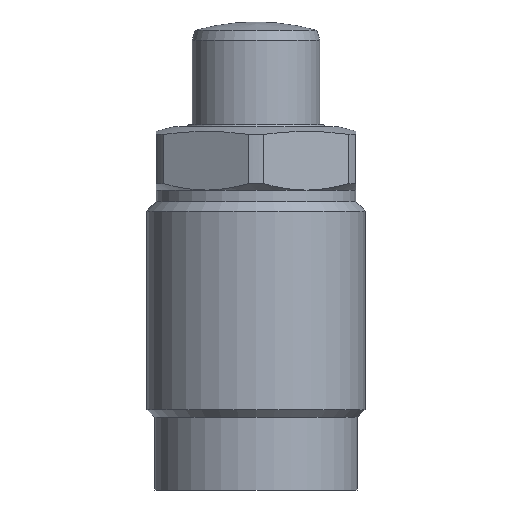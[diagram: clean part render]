
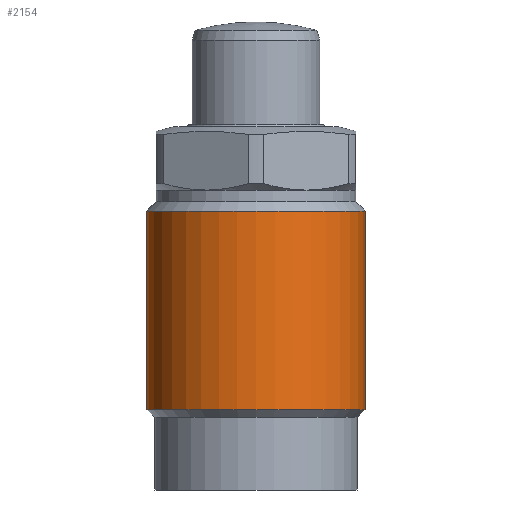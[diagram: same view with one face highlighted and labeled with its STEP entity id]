
A CAD part, front view. The second image highlights one B-rep face of the part: STEP entity #2154.
In plain terms, the highlighted cylindrical face has radius 12 mm (diameter 24 mm), a partial arc.
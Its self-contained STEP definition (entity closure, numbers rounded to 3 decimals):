
#280 = CARTESIAN_POINT ( 'NONE',  ( 12., 0., -31.15 ) ) ;
#281 = CARTESIAN_POINT ( 'NONE',  ( 12., 0., -9.3 ) ) ;
#282 = CARTESIAN_POINT ( 'NONE',  ( -12., 0., -31.15 ) ) ;
#283 = CARTESIAN_POINT ( 'NONE',  ( -12., 0., -9.3 ) ) ;
#475 = VERTEX_POINT ( 'NONE', #280 ) ;
#476 = VERTEX_POINT ( 'NONE', #281 ) ;
#477 = VERTEX_POINT ( 'NONE', #282 ) ;
#478 = VERTEX_POINT ( 'NONE', #283 ) ;
#819 = DIRECTION ( 'NONE',  ( 0., 0., 1. ) ) ;
#821 = FACE_OUTER_BOUND ( 'NONE', #1818, .T. ) ;
#822 = CARTESIAN_POINT ( 'NONE',  ( 0., 0., 4.2 ) ) ;
#824 = CYLINDRICAL_SURFACE ( 'NONE', #1025, 12. ) ;
#825 = DIRECTION ( 'NONE',  ( 1., 0., 0. ) ) ;
#970 = VECTOR ( 'NONE', #1559, 1000. ) ;
#976 = VECTOR ( 'NONE', #1562, 1000. ) ;
#1025 = AXIS2_PLACEMENT_3D ( 'NONE', #822, #819, #825 ) ;
#1466 = CARTESIAN_POINT ( 'NONE',  ( 0., 0., -31.15 ) ) ;
#1467 = DIRECTION ( 'NONE',  ( 0., 0., 1. ) ) ;
#1468 = DIRECTION ( 'NONE',  ( 1., 0., 0. ) ) ;
#1469 = CARTESIAN_POINT ( 'NONE',  ( 0., 0., -9.3 ) ) ;
#1470 = DIRECTION ( 'NONE',  ( 0., 0., 1. ) ) ;
#1471 = DIRECTION ( 'NONE',  ( 1., 0., 0. ) ) ;
#1549 = CARTESIAN_POINT ( 'NONE',  ( -12., 0., 4.2 ) ) ;
#1555 = LINE ( 'NONE', #1549, #970 ) ;
#1559 = DIRECTION ( 'NONE',  ( 0., 0., 1. ) ) ;
#1560 = LINE ( 'NONE', #1561, #976 ) ;
#1561 = CARTESIAN_POINT ( 'NONE',  ( 12., 0., 4.2 ) ) ;
#1562 = DIRECTION ( 'NONE',  ( 0., 0., 1. ) ) ;
#1659 = EDGE_CURVE ( 'NONE', #477, #475, #1746, .T. ) ;
#1660 = EDGE_CURVE ( 'NONE', #478, #476, #1751, .T. ) ;
#1689 = EDGE_CURVE ( 'NONE', #477, #478, #1555, .T. ) ;
#1690 = EDGE_CURVE ( 'NONE', #475, #476, #1560, .T. ) ;
#1746 = CIRCLE ( 'NONE', #2143, 12. ) ;
#1751 = CIRCLE ( 'NONE', #1752, 12. ) ;
#1752 = AXIS2_PLACEMENT_3D ( 'NONE', #1469, #1470, #1471 ) ;
#1818 = EDGE_LOOP ( 'NONE', ( #1924, #1923, #1922, #1921 ) ) ;
#1921 = ORIENTED_EDGE ( 'NONE', *, *, #1660, .F. ) ;
#1922 = ORIENTED_EDGE ( 'NONE', *, *, #1690, .T. ) ;
#1923 = ORIENTED_EDGE ( 'NONE', *, *, #1659, .T. ) ;
#1924 = ORIENTED_EDGE ( 'NONE', *, *, #1689, .F. ) ;
#2143 = AXIS2_PLACEMENT_3D ( 'NONE', #1466, #1467, #1468 ) ;
#2154 = ADVANCED_FACE ( 'NONE', ( #821 ), #824, .T. ) ;
